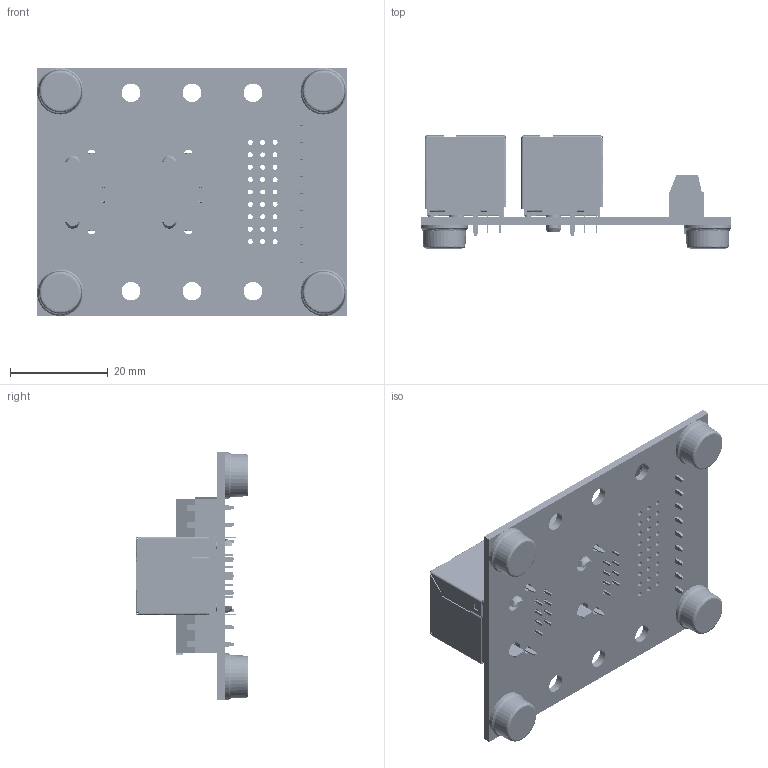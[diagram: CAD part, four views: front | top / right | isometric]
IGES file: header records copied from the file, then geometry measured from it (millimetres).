
Start section: SolidWorks IGES file using analytic representation for surfaces
Global section: file name: W:\end-user\products\brk\brk8p8csj2b\3dmodel\rev_a\render\brk8p8csj2b-s-ft_rev_a.igs; native system: SolidWorks 2018; preprocessor: SolidWorks 2018; author: leviroy; date: 220414.084308; units: inch
Bounding box: 63.5 x 23.11 x 50.8 mm (x, y, z)
Surface area: 21697.2 mm2 (no closed solid volume)
Topology: 0 solids, 0 shells, 4317 faces, 34776 edges, 34754 vertices
Faces by surface type: bspline 3511, revolution 806
